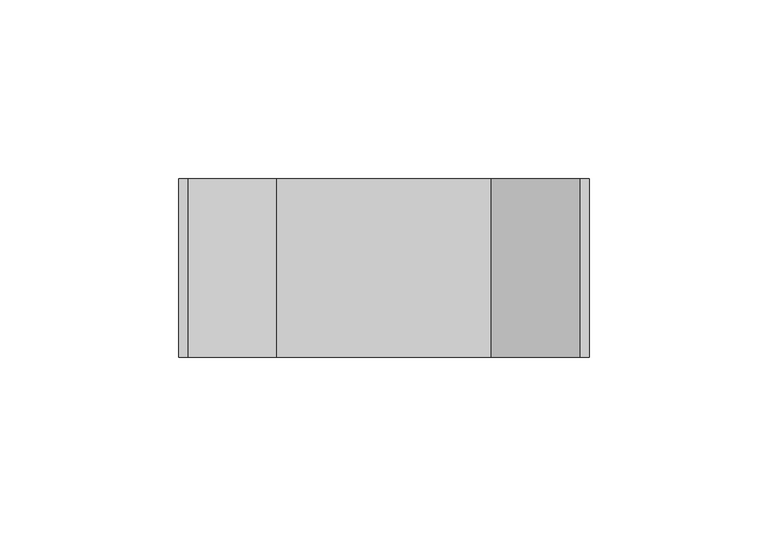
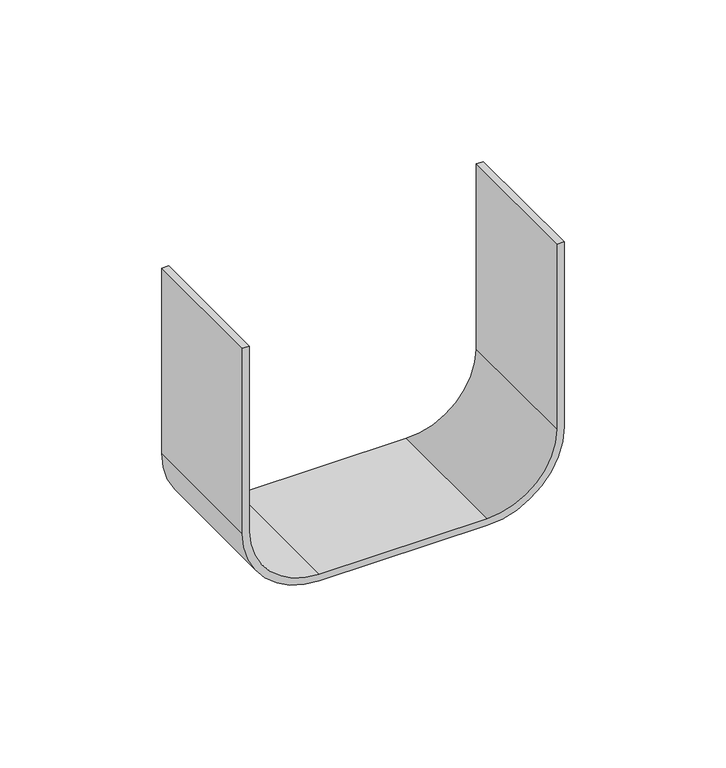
"""IFC4 building model written with IfcOpenShell, lengths in millimetres: cable carrier fitting geometry, CCT_Hyperline_FBTR-CNT Соединение лотков для оптического лотка : Соединение лотков для оптического лотка."""

from ifc_helpers import new_model, si_unit, point, frame, frame_2d, origin, place, context, project, spatial, polyline, circle_curve, trimmed, segment, composite_curve, outline, extrude, source, transform, mapped, element, save


def cable_carrier_fitting_3dfe4c8f(model_context):
    return source(origin(), model_context, "Body", "SweptSolid", [
        extrude(outline(composite_curve([segment(polyline([(-19.96, -54.96), (50.0, -54.96), (50.0, -57.5), (-19.96, -57.5)]), True, "CONTINUOUS"), segment(trimmed(circle_curve(frame_2d((-19.96, -29.96)), 27.54), [point((-19.96, -57.5))], [point((-47.5, -29.96))], False, "CARTESIAN"), True, "CONTINUOUS"), segment(polyline([(-47.5, -29.96), (-47.5, 29.96)]), True, "CONTINUOUS"), segment(trimmed(circle_curve(frame_2d((-19.96, 29.96)), 27.54), [point((-47.5, 29.96))], [point((-19.96, 57.5))], False, "CARTESIAN"), True, "CONTINUOUS"), segment(polyline([(-19.96, 57.5), (50.0, 57.5), (50.0, 54.96), (-19.96, 54.96)]), True, "CONTINUOUS"), segment(trimmed(circle_curve(frame_2d((-19.96, 29.96)), 25.0), [point((-19.96, 54.96))], [point((-44.96, 29.96))], True, "CARTESIAN"), True, "CONTINUOUS"), segment(polyline([(-44.96, 29.96), (-44.96, -29.96)]), True, "CONTINUOUS"), segment(trimmed(circle_curve(frame_2d((-19.96, -29.96)), 25.0), [point((-44.96, -29.96))], [point((-19.96, -54.96))], True, "CARTESIAN"), True, "CONTINUOUS")], self_intersect=False)), frame((0.0, -25.0, 0.0), z_axis=(0.0, 1.0, 0.0), x_axis=(0.0, 0.0, 1.0)), (0.0, 0.0, 1.0), 50.0),
    ])


if __name__ == "__main__":
    model = new_model("IFC4")
    model_context = context("Model", 3, world=origin())
    ifc_project = project(units=[si_unit("LENGTHUNIT", "METRE", prefix="MILLI")], contexts=[model_context])
    site = spatial("IfcSite", under=ifc_project)
    building = spatial("IfcBuilding", under=site)
    placement = place(None, origin())
    cable_carrier_fitting_shape = cable_carrier_fitting_3dfe4c8f(model_context)
    element("IfcCableCarrierFitting", 1, ObjectType="CCT_Hyperline_FBTR-CNT Соединение лотков для оптического лотка : Соединение лотков для оптического лотка", at=placement, inside=building, context=model_context, shape_type="MappedRepresentation", body=[
        mapped(cable_carrier_fitting_shape, transform((0.0, 0.0, 0.0), x_axis=(1.0, 0.0, 0.0), y_axis=(0.0, 1.0, 0.0), z_axis=(0.0, 0.0, 1.0))),
    ])
    save(model, "model.ifc")
